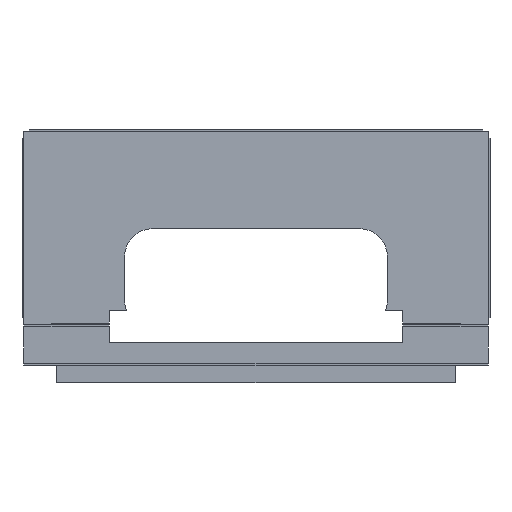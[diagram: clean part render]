
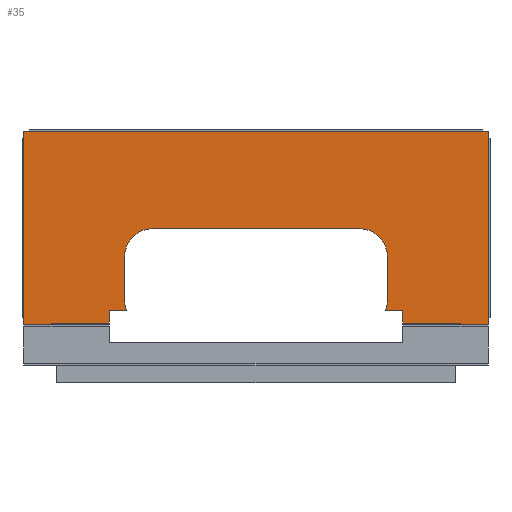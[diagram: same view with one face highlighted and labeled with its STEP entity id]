
A CAD part, left-side view. The second image highlights one B-rep face of the part: STEP entity #35.
In plain terms, the highlighted planar face has unit normal (-1, 0, 0).
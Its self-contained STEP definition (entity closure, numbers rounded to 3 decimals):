
#35 = ADVANCED_FACE('',(#36),#202,.F.);
#36 = FACE_BOUND('',#37,.F.);
#37 = EDGE_LOOP('',(#38,#48,#56,#64,#72,#80,#88,#96,#104,#113,#121,#130,
    #138,#147,#155,#164,#172,#180,#188,#196));
#38 = ORIENTED_EDGE('',*,*,#39,.T.);
#39 = EDGE_CURVE('',#40,#42,#44,.T.);
#40 = VERTEX_POINT('',#41);
#41 = CARTESIAN_POINT('',(69.464,35.136,4.994));
#42 = VERTEX_POINT('',#43);
#43 = CARTESIAN_POINT('',(69.464,35.136,12.));
#44 = LINE('',#45,#46);
#45 = CARTESIAN_POINT('',(69.464,35.136,4.994));
#46 = VECTOR('',#47,1.);
#47 = DIRECTION('',(0.,0.,1.));
#48 = ORIENTED_EDGE('',*,*,#49,.F.);
#49 = EDGE_CURVE('',#50,#42,#52,.T.);
#50 = VERTEX_POINT('',#51);
#51 = CARTESIAN_POINT('',(69.464,18.336,12.));
#52 = LINE('',#53,#54);
#53 = CARTESIAN_POINT('',(69.464,18.336,12.));
#54 = VECTOR('',#55,1.);
#55 = DIRECTION('',(0.,1.,0.));
#56 = ORIENTED_EDGE('',*,*,#57,.F.);
#57 = EDGE_CURVE('',#58,#50,#60,.T.);
#58 = VERTEX_POINT('',#59);
#59 = CARTESIAN_POINT('',(69.464,18.336,4.994));
#60 = LINE('',#61,#62);
#61 = CARTESIAN_POINT('',(69.464,18.336,4.994));
#62 = VECTOR('',#63,1.);
#63 = DIRECTION('',(0.,0.,1.));
#64 = ORIENTED_EDGE('',*,*,#65,.T.);
#65 = EDGE_CURVE('',#58,#66,#68,.T.);
#66 = VERTEX_POINT('',#67);
#67 = CARTESIAN_POINT('',(69.464,19.336,4.994));
#68 = LINE('',#69,#70);
#69 = CARTESIAN_POINT('',(69.464,18.336,4.994));
#70 = VECTOR('',#71,1.);
#71 = DIRECTION('',(0.,1.,0.));
#72 = ORIENTED_EDGE('',*,*,#73,.F.);
#73 = EDGE_CURVE('',#74,#66,#76,.T.);
#74 = VERTEX_POINT('',#75);
#75 = CARTESIAN_POINT('',(69.464,19.336,5.058));
#76 = LINE('',#77,#78);
#77 = CARTESIAN_POINT('',(69.464,19.336,5.01));
#78 = VECTOR('',#79,1.);
#79 = DIRECTION('',(0.,0.,-1.));
#80 = ORIENTED_EDGE('',*,*,#81,.F.);
#81 = EDGE_CURVE('',#82,#74,#84,.T.);
#82 = VERTEX_POINT('',#83);
#83 = CARTESIAN_POINT('',(69.464,21.436,5.058));
#84 = LINE('',#85,#86);
#85 = CARTESIAN_POINT('',(69.464,22.536,5.058));
#86 = VECTOR('',#87,1.);
#87 = DIRECTION('',(0.,-1.,0.));
#88 = ORIENTED_EDGE('',*,*,#89,.T.);
#89 = EDGE_CURVE('',#82,#90,#92,.T.);
#90 = VERTEX_POINT('',#91);
#91 = CARTESIAN_POINT('',(69.464,21.436,5.5));
#92 = LINE('',#93,#94);
#93 = CARTESIAN_POINT('',(69.464,21.436,4.672));
#94 = VECTOR('',#95,1.);
#95 = DIRECTION('',(0.,0.,1.));
#96 = ORIENTED_EDGE('',*,*,#97,.F.);
#97 = EDGE_CURVE('',#98,#90,#100,.T.);
#98 = VERTEX_POINT('',#99);
#99 = CARTESIAN_POINT('',(69.464,22.057,5.5));
#100 = LINE('',#101,#102);
#101 = CARTESIAN_POINT('',(69.464,19.886,5.5));
#102 = VECTOR('',#103,1.);
#103 = DIRECTION('',(0.,-1.,0.));
#104 = ORIENTED_EDGE('',*,*,#105,.F.);
#105 = EDGE_CURVE('',#106,#98,#108,.T.);
#106 = VERTEX_POINT('',#107);
#107 = CARTESIAN_POINT('',(69.464,21.986,5.87));
#108 = CIRCLE('',#109,1.);
#109 = AXIS2_PLACEMENT_3D('',#110,#111,#112);
#110 = CARTESIAN_POINT('',(69.464,22.986,5.87));
#111 = DIRECTION('',(1.,0.,-0.));
#112 = DIRECTION('',(0.,0.,1.));
#113 = ORIENTED_EDGE('',*,*,#114,.T.);
#114 = EDGE_CURVE('',#106,#115,#117,.T.);
#115 = VERTEX_POINT('',#116);
#116 = CARTESIAN_POINT('',(69.464,21.986,7.47));
#117 = LINE('',#118,#119);
#118 = CARTESIAN_POINT('',(69.464,21.986,5.432));
#119 = VECTOR('',#120,1.);
#120 = DIRECTION('',(0.,0.,1.));
#121 = ORIENTED_EDGE('',*,*,#122,.F.);
#122 = EDGE_CURVE('',#123,#115,#125,.T.);
#123 = VERTEX_POINT('',#124);
#124 = CARTESIAN_POINT('',(69.464,22.986,8.47));
#125 = CIRCLE('',#126,1.);
#126 = AXIS2_PLACEMENT_3D('',#127,#128,#129);
#127 = CARTESIAN_POINT('',(69.464,22.986,7.47));
#128 = DIRECTION('',(1.,0.,-0.));
#129 = DIRECTION('',(0.,0.,1.));
#130 = ORIENTED_EDGE('',*,*,#131,.F.);
#131 = EDGE_CURVE('',#132,#123,#134,.T.);
#132 = VERTEX_POINT('',#133);
#133 = CARTESIAN_POINT('',(69.464,30.486,8.47));
#134 = LINE('',#135,#136);
#135 = CARTESIAN_POINT('',(69.464,20.661,8.47));
#136 = VECTOR('',#137,1.);
#137 = DIRECTION('',(0.,-1.,0.));
#138 = ORIENTED_EDGE('',*,*,#139,.F.);
#139 = EDGE_CURVE('',#140,#132,#142,.T.);
#140 = VERTEX_POINT('',#141);
#141 = CARTESIAN_POINT('',(69.464,31.486,7.47));
#142 = CIRCLE('',#143,1.);
#143 = AXIS2_PLACEMENT_3D('',#144,#145,#146);
#144 = CARTESIAN_POINT('',(69.464,30.486,7.47));
#145 = DIRECTION('',(1.,0.,-0.));
#146 = DIRECTION('',(0.,0.,1.));
#147 = ORIENTED_EDGE('',*,*,#148,.F.);
#148 = EDGE_CURVE('',#149,#140,#151,.T.);
#149 = VERTEX_POINT('',#150);
#150 = CARTESIAN_POINT('',(69.464,31.486,5.87));
#151 = LINE('',#152,#153);
#152 = CARTESIAN_POINT('',(69.464,31.486,5.432));
#153 = VECTOR('',#154,1.);
#154 = DIRECTION('',(0.,0.,1.));
#155 = ORIENTED_EDGE('',*,*,#156,.F.);
#156 = EDGE_CURVE('',#157,#149,#159,.T.);
#157 = VERTEX_POINT('',#158);
#158 = CARTESIAN_POINT('',(69.464,31.415,5.5));
#159 = CIRCLE('',#160,1.);
#160 = AXIS2_PLACEMENT_3D('',#161,#162,#163);
#161 = CARTESIAN_POINT('',(69.464,30.486,5.87));
#162 = DIRECTION('',(1.,0.,-0.));
#163 = DIRECTION('',(0.,0.,1.));
#164 = ORIENTED_EDGE('',*,*,#165,.F.);
#165 = EDGE_CURVE('',#166,#157,#168,.T.);
#166 = VERTEX_POINT('',#167);
#167 = CARTESIAN_POINT('',(69.464,32.036,5.5));
#168 = LINE('',#169,#170);
#169 = CARTESIAN_POINT('',(69.464,19.886,5.5));
#170 = VECTOR('',#171,1.);
#171 = DIRECTION('',(0.,-1.,0.));
#172 = ORIENTED_EDGE('',*,*,#173,.F.);
#173 = EDGE_CURVE('',#174,#166,#176,.T.);
#174 = VERTEX_POINT('',#175);
#175 = CARTESIAN_POINT('',(69.464,32.036,5.058));
#176 = LINE('',#177,#178);
#177 = CARTESIAN_POINT('',(69.464,32.036,4.672));
#178 = VECTOR('',#179,1.);
#179 = DIRECTION('',(0.,0.,1.));
#180 = ORIENTED_EDGE('',*,*,#181,.F.);
#181 = EDGE_CURVE('',#182,#174,#184,.T.);
#182 = VERTEX_POINT('',#183);
#183 = CARTESIAN_POINT('',(69.464,34.136,5.058));
#184 = LINE('',#185,#186);
#185 = CARTESIAN_POINT('',(69.464,22.536,5.058));
#186 = VECTOR('',#187,1.);
#187 = DIRECTION('',(0.,-1.,0.));
#188 = ORIENTED_EDGE('',*,*,#189,.F.);
#189 = EDGE_CURVE('',#190,#182,#192,.T.);
#190 = VERTEX_POINT('',#191);
#191 = CARTESIAN_POINT('',(69.464,34.136,4.994));
#192 = LINE('',#193,#194);
#193 = CARTESIAN_POINT('',(69.464,34.136,5.01));
#194 = VECTOR('',#195,1.);
#195 = DIRECTION('',(0.,0.,1.));
#196 = ORIENTED_EDGE('',*,*,#197,.T.);
#197 = EDGE_CURVE('',#190,#40,#198,.T.);
#198 = LINE('',#199,#200);
#199 = CARTESIAN_POINT('',(69.464,18.336,4.994));
#200 = VECTOR('',#201,1.);
#201 = DIRECTION('',(0.,1.,0.));
#202 = PLANE('',#203);
#203 = AXIS2_PLACEMENT_3D('',#204,#205,#206);
#204 = CARTESIAN_POINT('',(69.464,18.336,4.994));
#205 = DIRECTION('',(1.,0.,0.));
#206 = DIRECTION('',(0.,0.,1.));
